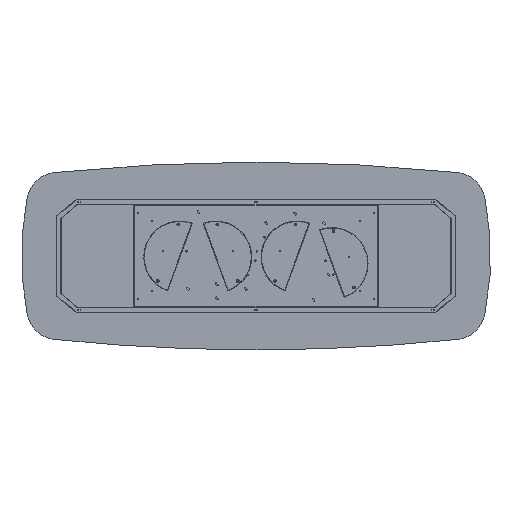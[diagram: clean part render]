
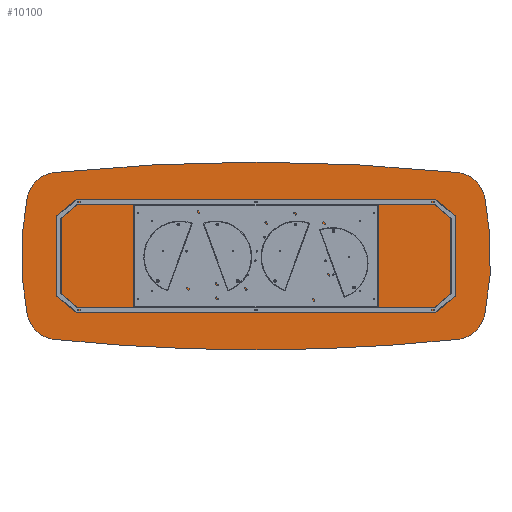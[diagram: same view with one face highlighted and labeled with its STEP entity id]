
A CAD part, front view. The second image highlights one B-rep face of the part: STEP entity #10100.
In plain terms, the highlighted planar face has unit normal (0, -1, 0).
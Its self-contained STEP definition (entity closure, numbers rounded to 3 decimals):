
#176 = ORIENTED_EDGE ( 'NONE', *, *, #420, .T. ) ;
#262 = EDGE_CURVE ( 'NONE', #8803, #15137, #4964, .T. ) ;
#420 = EDGE_CURVE ( 'NONE', #6640, #15137, #4975, .T. ) ;
#515 = CIRCLE ( 'NONE', #7692, 12500. ) ;
#578 = VERTEX_POINT ( 'NONE', #17528 ) ;
#611 = CARTESIAN_POINT ( 'NONE',  ( -1266.747, 0., -334.597 ) ) ;
#708 = AXIS2_PLACEMENT_3D ( 'NONE', #11984, #13557, #17015 ) ;
#883 = FACE_OUTER_BOUND ( 'NONE', #5722, .T. ) ;
#1040 = AXIS2_PLACEMENT_3D ( 'NONE', #18686, #9890, #2637 ) ;
#1178 = DIRECTION ( 'NONE',  ( 0., -1., 0. ) ) ;
#1427 = EDGE_CURVE ( 'NONE', #11473, #5416, #17501, .T. ) ;
#1603 = DIRECTION ( 'NONE',  ( 0., 0., 1. ) ) ;
#1970 = CARTESIAN_POINT ( 'NONE',  ( -1462.835, 0., -373.961 ) ) ;
#2082 = DIRECTION ( 'NONE',  ( 0., 0., 1. ) ) ;
#2155 = CARTESIAN_POINT ( 'NONE',  ( 0., 0., -11900. ) ) ;
#2301 = ORIENTED_EDGE ( 'NONE', *, *, #262, .F. ) ;
#2637 = DIRECTION ( 'NONE',  ( 0., 0., 1. ) ) ;
#2863 = ORIENTED_EDGE ( 'NONE', *, *, #18362, .F. ) ;
#3054 = DIRECTION ( 'NONE',  ( 0., 1., 0. ) ) ;
#3724 = DIRECTION ( 'NONE',  ( 0., 0., 1. ) ) ;
#4017 = DIRECTION ( 'NONE',  ( 0., 0., 1. ) ) ;
#4956 = CIRCLE ( 'NONE', #15883, 1900. ) ;
#4964 = CIRCLE ( 'NONE', #17760, 12500. ) ;
#4975 = CIRCLE ( 'NONE', #13740, 200. ) ;
#5416 = VERTEX_POINT ( 'NONE', #15665 ) ;
#5441 = DIRECTION ( 'NONE',  ( 0., 1., 0. ) ) ;
#5679 = CARTESIAN_POINT ( 'NONE',  ( 1462.835, 0., 373.961 ) ) ;
#5722 = EDGE_LOOP ( 'NONE', ( #18181, #7517, #2863, #176, #2301, #17887, #5901, #13855, #6170 ) ) ;
#5901 = ORIENTED_EDGE ( 'NONE', *, *, #15907, .T. ) ;
#6105 = DIRECTION ( 'NONE',  ( 0., 1., 0. ) ) ;
#6170 = ORIENTED_EDGE ( 'NONE', *, *, #14801, .T. ) ;
#6640 = VERTEX_POINT ( 'NONE', #1970 ) ;
#6832 = EDGE_CURVE ( 'NONE', #578, #15458, #515, .T. ) ;
#7517 = ORIENTED_EDGE ( 'NONE', *, *, #11194, .T. ) ;
#7532 = VERTEX_POINT ( 'NONE', #16751 ) ;
#7692 = AXIS2_PLACEMENT_3D ( 'NONE', #2155, #8122, #3724 ) ;
#8008 = AXIS2_PLACEMENT_3D ( 'NONE', #14228, #18345, #12384 ) ;
#8122 = DIRECTION ( 'NONE',  ( 0., 1., 0. ) ) ;
#8401 = CARTESIAN_POINT ( 'NONE',  ( -400., 0., 0. ) ) ;
#8734 = DIRECTION ( 'NONE',  ( 0., 0., 1. ) ) ;
#8759 = AXIS2_PLACEMENT_3D ( 'NONE', #8401, #11437, #11637 ) ;
#8803 = VERTEX_POINT ( 'NONE', #18952 ) ;
#8934 = AXIS2_PLACEMENT_3D ( 'NONE', #11562, #1178, #4017 ) ;
#9033 = CARTESIAN_POINT ( 'NONE',  ( 0., 0., 11900. ) ) ;
#9285 = VERTEX_POINT ( 'NONE', #15456 ) ;
#9890 = DIRECTION ( 'NONE',  ( 0., 1., 0. ) ) ;
#10100 = ADVANCED_FACE ( 'NONE', ( #883 ), #15646, .F. ) ;
#10908 = CARTESIAN_POINT ( 'NONE',  ( 0., 0., 11900. ) ) ;
#11000 = DIRECTION ( 'NONE',  ( 0., -1., 0. ) ) ;
#11194 = EDGE_CURVE ( 'NONE', #578, #7532, #17255, .T. ) ;
#11437 = DIRECTION ( 'NONE',  ( 0., 1., 0. ) ) ;
#11473 = VERTEX_POINT ( 'NONE', #5679 ) ;
#11562 = CARTESIAN_POINT ( 'NONE',  ( 1266.747, 0., -334.597 ) ) ;
#11637 = DIRECTION ( 'NONE',  ( 0., 0., 1. ) ) ;
#11984 = CARTESIAN_POINT ( 'NONE',  ( -1266.747, 0., 334.597 ) ) ;
#12384 = DIRECTION ( 'NONE',  ( 0., 0., 1. ) ) ;
#12881 = CARTESIAN_POINT ( 'NONE',  ( 400., 0., 0. ) ) ;
#13246 = EDGE_CURVE ( 'NONE', #9285, #8803, #14835, .T. ) ;
#13557 = DIRECTION ( 'NONE',  ( 0., -1., 0. ) ) ;
#13640 = CIRCLE ( 'NONE', #8008, 200. ) ;
#13740 = AXIS2_PLACEMENT_3D ( 'NONE', #611, #11000, #2082 ) ;
#13855 = ORIENTED_EDGE ( 'NONE', *, *, #1427, .F. ) ;
#14228 = CARTESIAN_POINT ( 'NONE',  ( 1266.747, 0., 334.597 ) ) ;
#14248 = CIRCLE ( 'NONE', #8934, 200. ) ;
#14494 = CARTESIAN_POINT ( 'NONE',  ( 1287.344, 0., 533.533 ) ) ;
#14801 = EDGE_CURVE ( 'NONE', #11473, #15458, #13640, .T. ) ;
#14835 = CIRCLE ( 'NONE', #18267, 12500. ) ;
#14908 = CARTESIAN_POINT ( 'NONE',  ( -1287.344, 0., -533.533 ) ) ;
#15137 = VERTEX_POINT ( 'NONE', #14908 ) ;
#15456 = CARTESIAN_POINT ( 'NONE',  ( 1287.344, 0., -533.533 ) ) ;
#15458 = VERTEX_POINT ( 'NONE', #14494 ) ;
#15646 = PLANE ( 'NONE',  #1040 ) ;
#15665 = CARTESIAN_POINT ( 'NONE',  ( 1462.835, 0., -373.961 ) ) ;
#15883 = AXIS2_PLACEMENT_3D ( 'NONE', #12881, #5441, #8734 ) ;
#15907 = EDGE_CURVE ( 'NONE', #9285, #5416, #14248, .T. ) ;
#16751 = CARTESIAN_POINT ( 'NONE',  ( -1462.835, 0., 373.961 ) ) ;
#17015 = DIRECTION ( 'NONE',  ( 0., 0., 1. ) ) ;
#17255 = CIRCLE ( 'NONE', #708, 200. ) ;
#17501 = CIRCLE ( 'NONE', #8759, 1900. ) ;
#17528 = CARTESIAN_POINT ( 'NONE',  ( -1287.344, 0., 533.533 ) ) ;
#17760 = AXIS2_PLACEMENT_3D ( 'NONE', #10908, #6105, #18310 ) ;
#17887 = ORIENTED_EDGE ( 'NONE', *, *, #13246, .F. ) ;
#18181 = ORIENTED_EDGE ( 'NONE', *, *, #6832, .F. ) ;
#18267 = AXIS2_PLACEMENT_3D ( 'NONE', #9033, #3054, #1603 ) ;
#18310 = DIRECTION ( 'NONE',  ( 0., 0., 1. ) ) ;
#18345 = DIRECTION ( 'NONE',  ( 0., -1., 0. ) ) ;
#18362 = EDGE_CURVE ( 'NONE', #6640, #7532, #4956, .T. ) ;
#18686 = CARTESIAN_POINT ( 'NONE',  ( -200., 0., 5950. ) ) ;
#18952 = CARTESIAN_POINT ( 'NONE',  ( 0., 0., -600. ) ) ;
